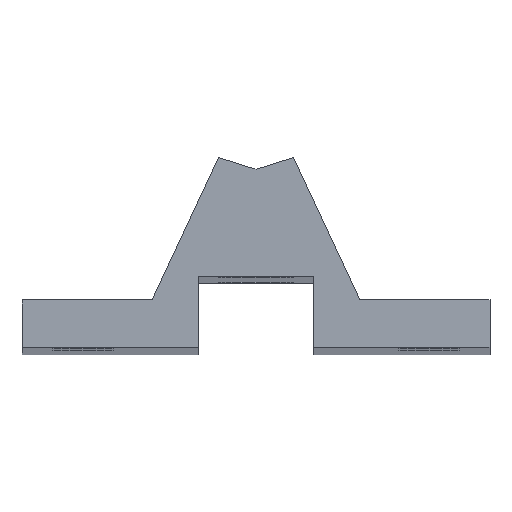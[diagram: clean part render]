
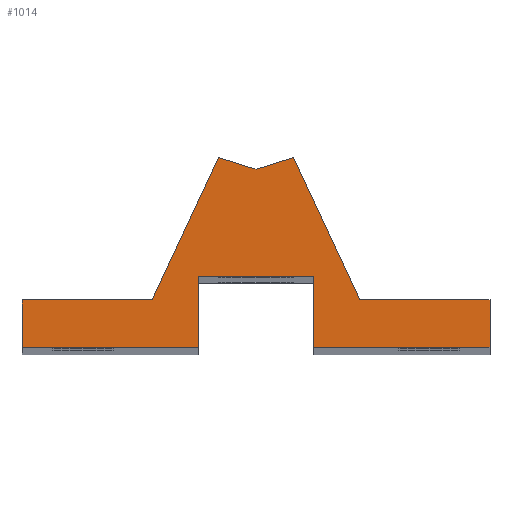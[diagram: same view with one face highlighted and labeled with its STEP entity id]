
A CAD part, top view. The second image highlights one B-rep face of the part: STEP entity #1014.
In plain terms, the highlighted planar face has unit normal (0, 0, 1).
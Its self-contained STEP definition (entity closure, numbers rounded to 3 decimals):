
#9 = LINE ( 'NONE', #463, #659 ) ;
#17 = VERTEX_POINT ( 'NONE', #1254 ) ;
#43 = CARTESIAN_POINT ( 'NONE',  ( 8.5, 7., 299.75 ) ) ;
#47 = ORIENTED_EDGE ( 'NONE', *, *, #472, .T. ) ;
#52 = ORIENTED_EDGE ( 'NONE', *, *, #1259, .T. ) ;
#71 = VERTEX_POINT ( 'NONE', #682 ) ;
#76 = VERTEX_POINT ( 'NONE', #1131 ) ;
#83 = VECTOR ( 'NONE', #384, 1000. ) ;
#95 = DIRECTION ( 'NONE',  ( 1., 0., 0. ) ) ;
#105 = LINE ( 'NONE', #799, #632 ) ;
#153 = CARTESIAN_POINT ( 'NONE',  ( 34.5, -3.5, 299.75 ) ) ;
#160 = VERTEX_POINT ( 'NONE', #1479 ) ;
#170 = CARTESIAN_POINT ( 'NONE',  ( -8.5, 7., 299.75 ) ) ;
#182 = EDGE_LOOP ( 'NONE', ( #992, #1416, #1431, #542, #497, #1109, #1494, #52, #47, #500, #778, #707, #1396 ) ) ;
#198 = CARTESIAN_POINT ( 'NONE',  ( -34.5, 3.5, 299.75 ) ) ;
#201 = LINE ( 'NONE', #218, #1472 ) ;
#213 = VECTOR ( 'NONE', #917, 1000. ) ;
#218 = CARTESIAN_POINT ( 'NONE',  ( 34.5, 3.5, 299.75 ) ) ;
#240 = AXIS2_PLACEMENT_3D ( 'NONE', #894, #681, #95 ) ;
#265 = LINE ( 'NONE', #43, #836 ) ;
#280 = LINE ( 'NONE', #1076, #805 ) ;
#285 = DIRECTION ( 'NONE',  ( 1., 0., 0. ) ) ;
#321 = EDGE_CURVE ( 'NONE', #1329, #543, #1086, .T. ) ;
#331 = CARTESIAN_POINT ( 'NONE',  ( 15.313, 3.5, 299.75 ) ) ;
#344 = VERTEX_POINT ( 'NONE', #153 ) ;
#368 = EDGE_CURVE ( 'NONE', #846, #476, #265, .T. ) ;
#384 = DIRECTION ( 'NONE',  ( 0., -1., 0. ) ) ;
#459 = CARTESIAN_POINT ( 'NONE',  ( 34.5, 3.5, 299.75 ) ) ;
#463 = CARTESIAN_POINT ( 'NONE',  ( -34.5, -3.5, 299.75 ) ) ;
#467 = VERTEX_POINT ( 'NONE', #1155 ) ;
#472 = EDGE_CURVE ( 'NONE', #467, #17, #1373, .T. ) ;
#476 = VERTEX_POINT ( 'NONE', #561 ) ;
#497 = ORIENTED_EDGE ( 'NONE', *, *, #321, .T. ) ;
#500 = ORIENTED_EDGE ( 'NONE', *, *, #1426, .T. ) ;
#523 = DIRECTION ( 'NONE',  ( 0., 1., 0. ) ) ;
#538 = LINE ( 'NONE', #755, #678 ) ;
#542 = ORIENTED_EDGE ( 'NONE', *, *, #927, .T. ) ;
#543 = VERTEX_POINT ( 'NONE', #795 ) ;
#552 = FACE_OUTER_BOUND ( 'NONE', #182, .T. ) ;
#561 = CARTESIAN_POINT ( 'NONE',  ( 8.5, 7., 299.75 ) ) ;
#562 = CARTESIAN_POINT ( 'NONE',  ( -34.5, -3.5, 299.75 ) ) ;
#584 = DIRECTION ( 'NONE',  ( 0., 1., 0. ) ) ;
#605 = EDGE_CURVE ( 'NONE', #344, #926, #201, .T. ) ;
#632 = VECTOR ( 'NONE', #796, 1000. ) ;
#638 = LINE ( 'NONE', #1097, #83 ) ;
#659 = VECTOR ( 'NONE', #924, 1000. ) ;
#678 = VECTOR ( 'NONE', #973, 1000. ) ;
#681 = DIRECTION ( 'NONE',  ( 0., 0., 1. ) ) ;
#682 = CARTESIAN_POINT ( 'NONE',  ( -8.5, -3.5, 299.75 ) ) ;
#707 = ORIENTED_EDGE ( 'NONE', *, *, #1397, .F. ) ;
#755 = CARTESIAN_POINT ( 'NONE',  ( 5.622, 24.545, 299.75 ) ) ;
#773 = DIRECTION ( 'NONE',  ( -1., 0., 0. ) ) ;
#778 = ORIENTED_EDGE ( 'NONE', *, *, #1175, .T. ) ;
#781 = LINE ( 'NONE', #198, #213 ) ;
#795 = CARTESIAN_POINT ( 'NONE',  ( 5.516, 24.511, 299.75 ) ) ;
#796 = DIRECTION ( 'NONE',  ( -1., 0., 0. ) ) ;
#799 = CARTESIAN_POINT ( 'NONE',  ( -8.5, 7., 299.75 ) ) ;
#805 = VECTOR ( 'NONE', #847, 1000. ) ;
#836 = VECTOR ( 'NONE', #523, 1000. ) ;
#846 = VERTEX_POINT ( 'NONE', #1477 ) ;
#847 = DIRECTION ( 'NONE',  ( -0.423, -0.906, 0. ) ) ;
#894 = CARTESIAN_POINT ( 'NONE',  ( 0., 0., 299.75 ) ) ;
#903 = VECTOR ( 'NONE', #285, 1000. ) ;
#917 = DIRECTION ( 'NONE',  ( -1., 0., 0. ) ) ;
#924 = DIRECTION ( 'NONE',  ( 1., 0., 0. ) ) ;
#926 = VERTEX_POINT ( 'NONE', #459 ) ;
#927 = EDGE_CURVE ( 'NONE', #926, #1329, #781, .T. ) ;
#943 = EDGE_CURVE ( 'NONE', #476, #76, #105, .T. ) ;
#960 = EDGE_CURVE ( 'NONE', #982, #160, #1157, .T. ) ;
#961 = DIRECTION ( 'NONE',  ( -0.423, 0.906, 0. ) ) ;
#973 = DIRECTION ( 'NONE',  ( -0.954, -0.301, 0. ) ) ;
#980 = LINE ( 'NONE', #170, #1132 ) ;
#982 = VERTEX_POINT ( 'NONE', #1004 ) ;
#992 = ORIENTED_EDGE ( 'NONE', *, *, #368, .F. ) ;
#1004 = CARTESIAN_POINT ( 'NONE',  ( 0., 22.772, 299.75 ) ) ;
#1011 = VECTOR ( 'NONE', #961, 1000. ) ;
#1014 = ADVANCED_FACE ( 'NONE', ( #552 ), #1497, .T. ) ;
#1034 = CARTESIAN_POINT ( 'NONE',  ( -34.5, 3.5, 299.75 ) ) ;
#1076 = CARTESIAN_POINT ( 'NONE',  ( -15.313, 3.5, 299.75 ) ) ;
#1082 = VECTOR ( 'NONE', #1374, 1000. ) ;
#1086 = LINE ( 'NONE', #1192, #1011 ) ;
#1097 = CARTESIAN_POINT ( 'NONE',  ( -34.5, 3.5, 299.75 ) ) ;
#1109 = ORIENTED_EDGE ( 'NONE', *, *, #1248, .T. ) ;
#1128 = CARTESIAN_POINT ( 'NONE',  ( 0., 22.772, 299.75 ) ) ;
#1131 = CARTESIAN_POINT ( 'NONE',  ( -8.5, 7., 299.75 ) ) ;
#1132 = VECTOR ( 'NONE', #1338, 1000. ) ;
#1155 = CARTESIAN_POINT ( 'NONE',  ( -15.313, 3.5, 299.75 ) ) ;
#1157 = LINE ( 'NONE', #1128, #1082 ) ;
#1175 = EDGE_CURVE ( 'NONE', #1291, #71, #9, .T. ) ;
#1192 = CARTESIAN_POINT ( 'NONE',  ( 5.5, 24.545, 299.75 ) ) ;
#1200 = CARTESIAN_POINT ( 'NONE',  ( -34.5, -3.5, 299.75 ) ) ;
#1248 = EDGE_CURVE ( 'NONE', #543, #982, #538, .T. ) ;
#1254 = CARTESIAN_POINT ( 'NONE',  ( -34.5, 3.5, 299.75 ) ) ;
#1259 = EDGE_CURVE ( 'NONE', #160, #467, #280, .T. ) ;
#1291 = VERTEX_POINT ( 'NONE', #562 ) ;
#1316 = VECTOR ( 'NONE', #773, 1000. ) ;
#1321 = LINE ( 'NONE', #1200, #903 ) ;
#1329 = VERTEX_POINT ( 'NONE', #331 ) ;
#1338 = DIRECTION ( 'NONE',  ( 0., -1., 0. ) ) ;
#1373 = LINE ( 'NONE', #1034, #1316 ) ;
#1374 = DIRECTION ( 'NONE',  ( -0.954, 0.301, 0. ) ) ;
#1396 = ORIENTED_EDGE ( 'NONE', *, *, #943, .F. ) ;
#1397 = EDGE_CURVE ( 'NONE', #76, #71, #980, .T. ) ;
#1416 = ORIENTED_EDGE ( 'NONE', *, *, #1509, .T. ) ;
#1426 = EDGE_CURVE ( 'NONE', #17, #1291, #638, .T. ) ;
#1431 = ORIENTED_EDGE ( 'NONE', *, *, #605, .T. ) ;
#1472 = VECTOR ( 'NONE', #584, 1000. ) ;
#1477 = CARTESIAN_POINT ( 'NONE',  ( 8.5, -3.5, 299.75 ) ) ;
#1479 = CARTESIAN_POINT ( 'NONE',  ( -5.516, 24.511, 299.75 ) ) ;
#1494 = ORIENTED_EDGE ( 'NONE', *, *, #960, .T. ) ;
#1497 = PLANE ( 'NONE',  #240 ) ;
#1509 = EDGE_CURVE ( 'NONE', #846, #344, #1321, .T. ) ;
